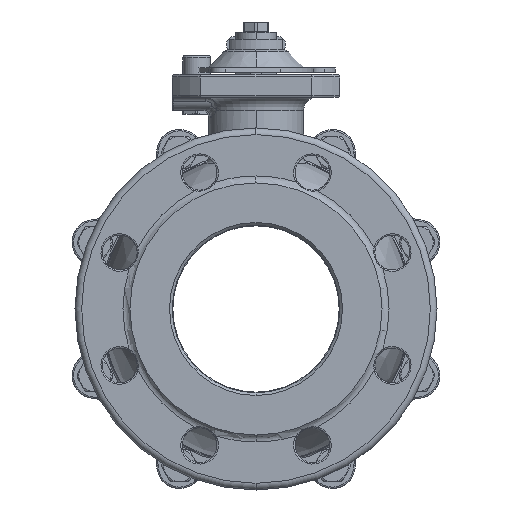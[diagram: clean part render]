
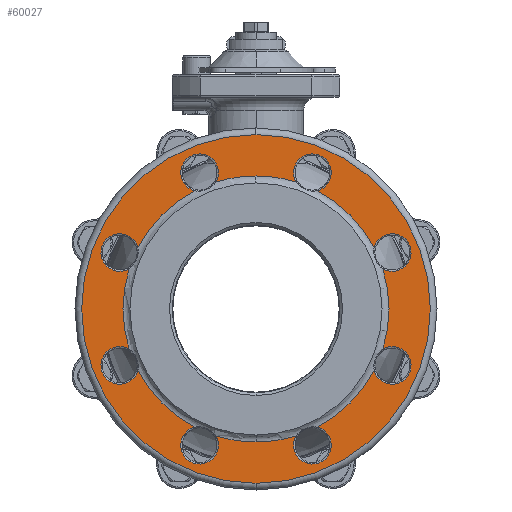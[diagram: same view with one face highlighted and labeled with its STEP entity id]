
A CAD part, left-side view. The second image highlights one B-rep face of the part: STEP entity #60027.
In plain terms, the highlighted planar face has unit normal (-1, 0, 0).
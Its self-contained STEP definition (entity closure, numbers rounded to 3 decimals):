
#57=CARTESIAN_POINT('',(-122.,0.,0.));
#58=DIRECTION('',(1.,0.,0.));
#59=DIRECTION('',(0.,0.953,-0.303));
#60=AXIS2_PLACEMENT_3D('',#57,#58,#59);
#62=CARTESIAN_POINT('',(-122.,0.,0.));
#63=DIRECTION('',(1.,0.,0.));
#64=DIRECTION('',(0.,0.46,-0.888));
#65=AXIS2_PLACEMENT_3D('',#62,#63,#64);
#67=CARTESIAN_POINT('',(-122.,0.,0.));
#68=DIRECTION('',(1.,0.,0.));
#69=DIRECTION('',(0.,0.,-1.));
#70=AXIS2_PLACEMENT_3D('',#67,#68,#69);
#72=CARTESIAN_POINT('',(-122.,0.,0.));
#73=DIRECTION('',(-1.,0.,0.));
#74=DIRECTION('',(0.,0.,-1.));
#75=AXIS2_PLACEMENT_3D('',#72,#73,#74);
#77=CARTESIAN_POINT('',(-122.,0.,0.));
#78=DIRECTION('',(-1.,0.,0.));
#79=DIRECTION('',(0.,-0.46,-0.888));
#80=AXIS2_PLACEMENT_3D('',#77,#78,#79);
#82=CARTESIAN_POINT('',(-122.,0.,0.));
#83=DIRECTION('',(-1.,0.,0.));
#84=DIRECTION('',(0.,-0.953,-0.303));
#85=AXIS2_PLACEMENT_3D('',#82,#83,#84);
#87=CARTESIAN_POINT('',(-122.,0.,0.));
#88=DIRECTION('',(-1.,0.,0.));
#89=DIRECTION('',(0.,-0.888,0.46));
#90=AXIS2_PLACEMENT_3D('',#87,#88,#89);
#92=CARTESIAN_POINT('',(-122.,0.,0.));
#93=DIRECTION('',(-1.,0.,0.));
#94=DIRECTION('',(0.,-0.303,0.953));
#95=AXIS2_PLACEMENT_3D('',#92,#93,#94);
#97=CARTESIAN_POINT('',(-122.,0.,0.));
#98=DIRECTION('',(1.,0.,0.));
#99=DIRECTION('',(0.,0.303,0.953));
#100=AXIS2_PLACEMENT_3D('',#97,#98,#99);
#102=CARTESIAN_POINT('',(-122.,0.,0.));
#103=DIRECTION('',(1.,0.,0.));
#104=DIRECTION('',(0.,0.888,0.46));
#105=AXIS2_PLACEMENT_3D('',#102,#103,#104);
#112=CARTESIAN_POINT('',(-122.,0.,0.));
#113=DIRECTION('',(1.,0.,0.));
#114=DIRECTION('',(0.,0.,-1.));
#115=AXIS2_PLACEMENT_3D('',#112,#113,#114);
#135=CARTESIAN_POINT('',(-122.,0.,0.));
#136=DIRECTION('',(1.,0.,0.));
#137=DIRECTION('',(0.,0.,1.));
#138=AXIS2_PLACEMENT_3D('',#135,#136,#137);
#47980=CARTESIAN_POINT('',(-122.,101.627,42.095));
#47981=DIRECTION('',(1.,0.,0.));
#47982=DIRECTION('',(0.,-0.506,-0.863));
#47983=AXIS2_PLACEMENT_3D('',#47980,#47981,#47982);
#48139=CARTESIAN_POINT('',(-122.,42.095,101.627));
#48140=DIRECTION('',(1.,0.,0.));
#48141=DIRECTION('',(0.,0.252,-0.968));
#48142=AXIS2_PLACEMENT_3D('',#48139,#48140,#48141);
#48288=CARTESIAN_POINT('',(-122.,-42.095,101.627));
#48289=DIRECTION('',(1.,0.,0.));
#48290=DIRECTION('',(0.,0.863,-0.506));
#48291=AXIS2_PLACEMENT_3D('',#48288,#48289,#48290);
#48437=CARTESIAN_POINT('',(-122.,-101.627,42.095));
#48438=DIRECTION('',(1.,0.,0.));
#48439=DIRECTION('',(0.,0.968,0.252));
#48440=AXIS2_PLACEMENT_3D('',#48437,#48438,#48439);
#48596=CARTESIAN_POINT('',(-122.,-101.627,-42.095));
#48597=DIRECTION('',(1.,0.,0.));
#48598=DIRECTION('',(0.,0.506,0.863));
#48599=AXIS2_PLACEMENT_3D('',#48596,#48597,#48598);
#48759=CARTESIAN_POINT('',(-122.,-42.095,-101.627));
#48760=DIRECTION('',(1.,0.,0.));
#48761=DIRECTION('',(0.,-0.252,0.968));
#48762=AXIS2_PLACEMENT_3D('',#48759,#48760,#48761);
#48908=CARTESIAN_POINT('',(-122.,42.095,-101.627));
#48909=DIRECTION('',(1.,0.,0.));
#48910=DIRECTION('',(0.,-0.863,0.506));
#48911=AXIS2_PLACEMENT_3D('',#48908,#48909,#48910);
#49053=CARTESIAN_POINT('',(-122.,101.627,-42.095));
#49054=DIRECTION('',(1.,0.,0.));
#49055=DIRECTION('',(0.,-0.968,-0.252));
#49056=AXIS2_PLACEMENT_3D('',#49053,#49054,#49055);
#49944=CARTESIAN_POINT('',(-122.,0.,-130.));
#49945=CARTESIAN_POINT('',(-122.,0.,130.));
#49946=VERTEX_POINT('',#49944);
#49947=VERTEX_POINT('',#49945);
#50084=CARTESIAN_POINT('',(-122.,94.545,30.018));
#50085=VERTEX_POINT('',#50084);
#50086=CARTESIAN_POINT('',(-122.,45.627,88.08));
#50087=VERTEX_POINT('',#50086);
#50088=CARTESIAN_POINT('',(-122.,-30.018,94.545));
#50089=VERTEX_POINT('',#50088);
#50090=CARTESIAN_POINT('',(-122.,-88.08,45.627));
#50091=VERTEX_POINT('',#50090);
#50092=CARTESIAN_POINT('',(-122.,-94.545,-30.018));
#50093=VERTEX_POINT('',#50092);
#50094=CARTESIAN_POINT('',(-122.,-45.627,-88.08));
#50095=VERTEX_POINT('',#50094);
#50096=CARTESIAN_POINT('',(-122.,30.018,-94.545));
#50097=VERTEX_POINT('',#50096);
#50098=CARTESIAN_POINT('',(-122.,88.08,-45.627));
#50099=VERTEX_POINT('',#50098);
#50100=CARTESIAN_POINT('',(-122.,88.08,45.627));
#50101=VERTEX_POINT('',#50100);
#50102=CARTESIAN_POINT('',(-122.,30.018,94.545));
#50103=VERTEX_POINT('',#50102);
#50104=CARTESIAN_POINT('',(-122.,-45.627,88.08));
#50105=VERTEX_POINT('',#50104);
#50106=CARTESIAN_POINT('',(-122.,-94.545,30.018));
#50107=VERTEX_POINT('',#50106);
#50108=CARTESIAN_POINT('',(-122.,-88.08,-45.627));
#50109=VERTEX_POINT('',#50108);
#50110=CARTESIAN_POINT('',(-122.,-30.018,-94.545));
#50111=VERTEX_POINT('',#50110);
#50112=CARTESIAN_POINT('',(-122.,45.627,-88.08));
#50113=VERTEX_POINT('',#50112);
#50114=CARTESIAN_POINT('',(-122.,94.545,-30.018));
#50115=VERTEX_POINT('',#50114);
#51020=CARTESIAN_POINT('',(-122.,0.,99.196));
#51021=VERTEX_POINT('',#51020);
#51022=CARTESIAN_POINT('',(-122.,0.,-99.196));
#51023=VERTEX_POINT('',#51022);
#59988=CARTESIAN_POINT('',(-122.,0.,0.));
#59989=DIRECTION('',(-1.,0.,0.));
#59990=DIRECTION('',(0.,0.,1.));
#59991=AXIS2_PLACEMENT_3D('',#59988,#59989,#59990);
#59992=PLANE('',#59991);
#59994=ORIENTED_EDGE('',*,*,#59993,.T.);
#59996=ORIENTED_EDGE('',*,*,#59995,.T.);
#59997=EDGE_LOOP('',(#59994,#59996));
#59998=FACE_OUTER_BOUND('',#59997,.F.);
#60000=ORIENTED_EDGE('',*,*,#59999,.F.);
#60001=ORIENTED_EDGE('',*,*,#59972,.F.);
#60003=ORIENTED_EDGE('',*,*,#60002,.F.);
#60004=ORIENTED_EDGE('',*,*,#59966,.F.);
#60006=ORIENTED_EDGE('',*,*,#60005,.F.);
#60007=ORIENTED_EDGE('',*,*,#59962,.F.);
#60008=ORIENTED_EDGE('',*,*,#59948,.T.);
#60010=ORIENTED_EDGE('',*,*,#60009,.F.);
#60011=ORIENTED_EDGE('',*,*,#59944,.T.);
#60013=ORIENTED_EDGE('',*,*,#60012,.F.);
#60014=ORIENTED_EDGE('',*,*,#59938,.T.);
#60016=ORIENTED_EDGE('',*,*,#60015,.F.);
#60017=ORIENTED_EDGE('',*,*,#59932,.T.);
#60019=ORIENTED_EDGE('',*,*,#60018,.F.);
#60020=ORIENTED_EDGE('',*,*,#59928,.T.);
#60021=ORIENTED_EDGE('',*,*,#59982,.F.);
#60023=ORIENTED_EDGE('',*,*,#60022,.F.);
#60024=ORIENTED_EDGE('',*,*,#59978,.F.);
#60025=EDGE_LOOP('',(#60000,#60001,#60003,#60004,#60006,#60007,#60008,#60010,
#60011,#60013,#60014,#60016,#60017,#60019,#60020,#60021,#60023,#60024));
#60026=FACE_BOUND('',#60025,.F.);
#60027=ADVANCED_FACE('',(#59998,#60026),#59992,.T.);
#61=CIRCLE('',#60,99.196);
#66=CIRCLE('',#65,99.196);
#71=CIRCLE('',#70,99.196);
#76=CIRCLE('',#75,99.196);
#81=CIRCLE('',#80,99.196);
#86=CIRCLE('',#85,99.196);
#91=CIRCLE('',#90,99.196);
#96=CIRCLE('',#95,99.196);
#101=CIRCLE('',#100,99.196);
#106=CIRCLE('',#105,99.196);
#116=CIRCLE('',#115,130.);
#139=CIRCLE('',#138,130.);
#47984=CIRCLE('',#47983,14.);
#48143=CIRCLE('',#48142,14.);
#48292=CIRCLE('',#48291,14.);
#48441=CIRCLE('',#48440,14.);
#48600=CIRCLE('',#48599,14.);
#48763=CIRCLE('',#48762,14.);
#48912=CIRCLE('',#48911,14.);
#49057=CIRCLE('',#49056,14.);
#59928=EDGE_CURVE('',#50089,#51021,#96,.T.);
#59932=EDGE_CURVE('',#50091,#50105,#91,.T.);
#59938=EDGE_CURVE('',#50093,#50107,#86,.T.);
#59944=EDGE_CURVE('',#50095,#50109,#81,.T.);
#59948=EDGE_CURVE('',#51023,#50111,#76,.T.);
#59962=EDGE_CURVE('',#51023,#50097,#71,.T.);
#59966=EDGE_CURVE('',#50113,#50099,#66,.T.);
#59972=EDGE_CURVE('',#50115,#50085,#61,.T.);
#59978=EDGE_CURVE('',#50101,#50087,#106,.T.);
#59982=EDGE_CURVE('',#50103,#51021,#101,.T.);
#59993=EDGE_CURVE('',#49946,#49947,#116,.T.);
#59995=EDGE_CURVE('',#49947,#49946,#139,.T.);
#59999=EDGE_CURVE('',#50085,#50101,#47984,.T.);
#60002=EDGE_CURVE('',#50099,#50115,#49057,.T.);
#60005=EDGE_CURVE('',#50097,#50113,#48912,.T.);
#60009=EDGE_CURVE('',#50095,#50111,#48763,.T.);
#60012=EDGE_CURVE('',#50093,#50109,#48600,.T.);
#60015=EDGE_CURVE('',#50091,#50107,#48441,.T.);
#60018=EDGE_CURVE('',#50089,#50105,#48292,.T.);
#60022=EDGE_CURVE('',#50087,#50103,#48143,.T.);
